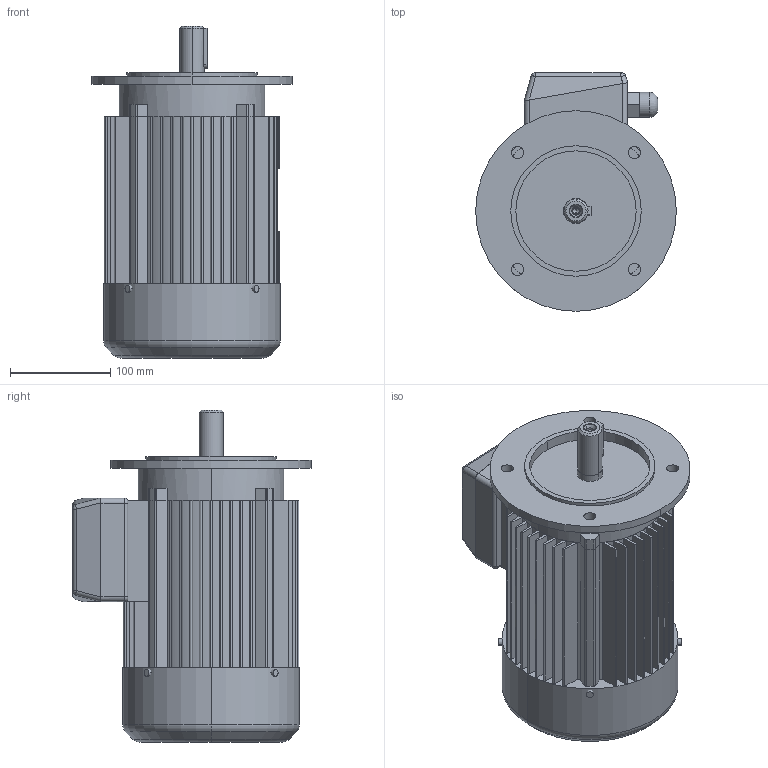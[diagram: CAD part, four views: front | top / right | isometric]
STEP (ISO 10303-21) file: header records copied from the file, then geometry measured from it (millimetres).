
FILE_DESCRIPTION (( 'STEP AP203' ), '1' );
FILE_NAME ('2SIEK90S2,4,6.STEP', '2012-10-26T11:55:20', ( 'INDUKTA' ), ( 'CANTONI MOTOR' ), 'SwSTEP 2.0', 'SolidWorks 2003064', '' );
FILE_SCHEMA (( 'CONFIG_CONTROL_DESIGN' ));
Length unit declared in the file: millimetre
Products named in the file (1): 2SIEK90S2,4,6
Bounding box: 200 x 238 x 331 mm (x, y, z)
Volume: 6267322.1 mm3; surface area: 513610.4 mm2
Topology: 11 solids, 11 shells, 367 faces, 977 edges, 631 vertices
Faces by surface type: cylinder 175, plane 166, cone 12, torus 10, sphere 4
Entity records: 11545 total; most frequent: DIRECTION 2085, CARTESIAN_POINT 2031, ORIENTED_EDGE 1942, EDGE_CURVE 971, AXIS2_PLACEMENT_3D 757, VERTEX_POINT 631, LINE 571, VECTOR 571
